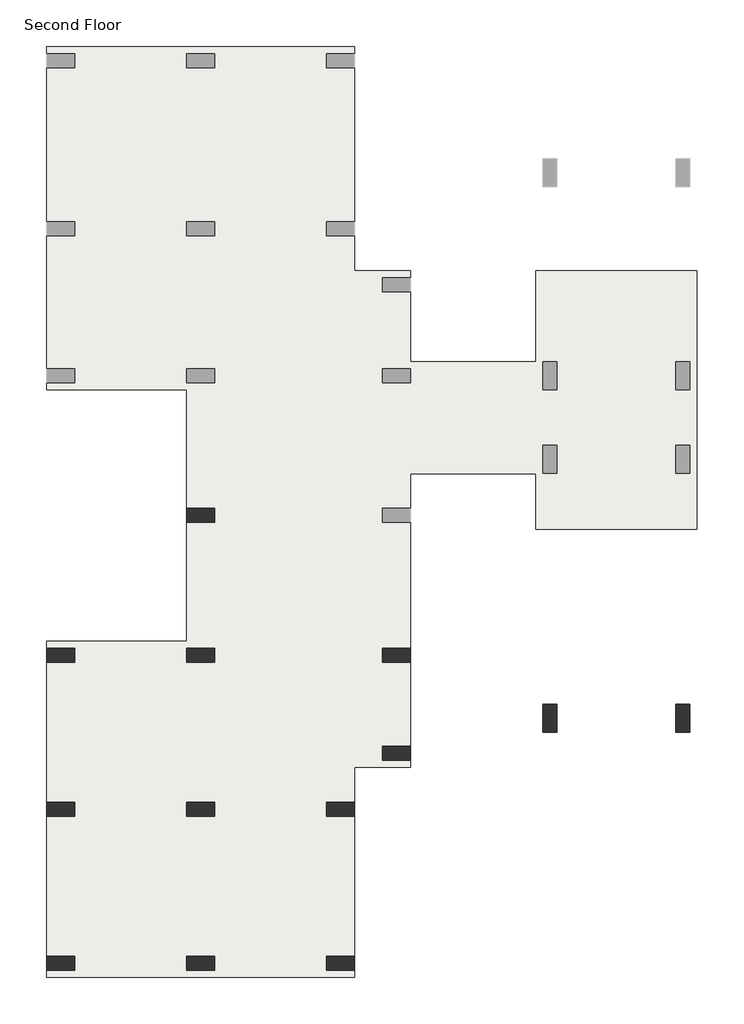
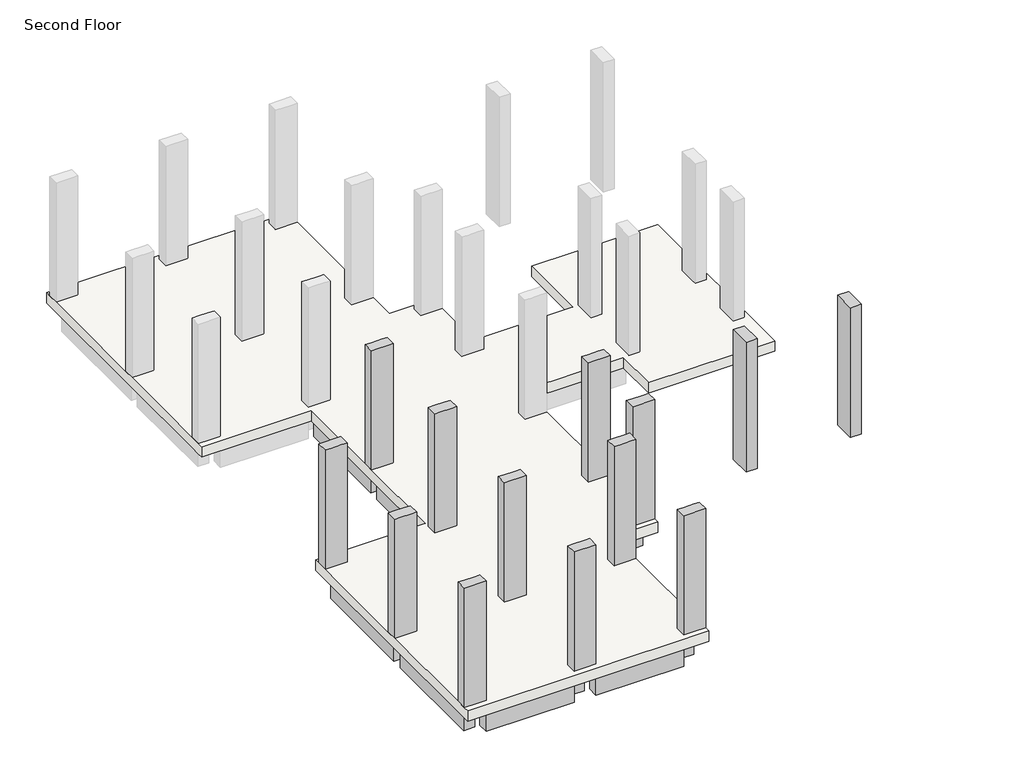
# One storey, part 1 of 2: 17 beams, 13 columns, 1 slab.
"""IFC4 building model written with IfcOpenShell, lengths in millimetres."""

import ifcopenshell
import ifcopenshell.guid

model = None  # the IFC model being written
_history = None  # IfcOwnerHistory: only IFC2X3 demands one
_inside = {}  # id of a spatial element -> (the spatial element, [elements in it])
_under = {}  # id of a project, library or spatial element -> (it, [spatial elements below it])
_declared = {}  # id of a project -> (the project, [libraries it declares])
_typed = {}  # id of a type object -> (the type object, [elements of that type])
_made_of = {}  # id of a material, layer set ... -> (it, [elements and type objects made of it])


def new_model(schema):
    """Start an empty IFC model of exactly this schema.

    Asked for "IFC4X3", IfcOpenShell would pick the latest addendum, in which some entities
    have other attributes; the version numbers below select the first issue.
    IFC2X3 requires an IfcOwnerHistory on every rooted entity: one is made here for all.
    """
    global model, _history
    if schema == "IFC4X3":
        model = ifcopenshell.file(schema_version=(4, 3, 0, 0))
    else:
        model = ifcopenshell.file(schema=schema)
    _inside.clear()
    _under.clear()
    _declared.clear()
    _typed.clear()
    _made_of.clear()
    _history = None
    if model.schema == "IFC2X3":
        org = make("IfcOrganization", Name="unknown")
        user = make(
            "IfcPersonAndOrganization",
            ThePerson=make("IfcPerson", FamilyName="unknown"),
            TheOrganization=org,
        )
        app = make(
            "IfcApplication",
            ApplicationDeveloper=org,
            Version="unknown",
            ApplicationFullName="unknown",
            ApplicationIdentifier="unknown",
        )
        _history = make(
            "IfcOwnerHistory",
            OwningUser=user,
            OwningApplication=app,
            ChangeAction="ADDED",
            CreationDate=0,
        )
    return model


def make(cls, **values):
    """One entity of the class cls with the attributes given. An attribute that is None is left unset."""
    return model.create_entity(
        cls, **{name: value for name, value in values.items() if value is not None}
    )


def rooted(cls, **values):
    """An entity with a GlobalId (a new one), such as an element, a storey or a relation."""
    return make(cls, GlobalId=ifcopenshell.guid.new(), OwnerHistory=_history, **values)


def si_unit(unit_type, name, prefix=None):
    """IfcSIUnit, for example si_unit("LENGTHUNIT", "METRE", prefix="MILLI")."""
    return make("IfcSIUnit", UnitType=unit_type, Prefix=prefix, Name=name)


def assignment(units):
    """IfcUnitAssignment: the units of a project."""
    return None if units is None else make("IfcUnitAssignment", Units=units)


def point(xyz):
    """IfcCartesianPoint."""
    return None if xyz is None else make("IfcCartesianPoint", Coordinates=xyz)


def direction(xyz):
    """IfcDirection."""
    return None if xyz is None else make("IfcDirection", DirectionRatios=xyz)


def frame(location, z_axis=None, x_axis=None):
    """IfcAxis2Placement3D, a coordinate frame: its origin and axes. An axis left out is left unset."""
    return make(
        "IfcAxis2Placement3D",
        Location=point(location),
        Axis=direction(z_axis),
        RefDirection=direction(x_axis),
    )


def origin():
    """The frame at (0, 0, 0) with its axes left unset."""
    return frame((0.0, 0.0, 0.0))


def place(relative_to, where):
    """IfcLocalPlacement: puts the frame where relative to a parent placement (None: the world)."""
    return make(
        "IfcLocalPlacement", PlacementRelTo=relative_to, RelativePlacement=where
    )


def context(
    kind, dimensions, precision=None, world=None, true_north=None, identifier=None
):
    """IfcGeometricRepresentationContext, for example the 3D "Model" context."""
    return make(
        "IfcGeometricRepresentationContext",
        ContextIdentifier=identifier,
        ContextType=kind,
        CoordinateSpaceDimension=dimensions,
        Precision=precision,
        WorldCoordinateSystem=world,
        TrueNorth=true_north,
    )


def project(units=None, contexts=None):
    """IfcProject with its units and contexts."""
    return rooted(
        "IfcProject",
        Name="project",
        RepresentationContexts=contexts,
        UnitsInContext=assignment(units),
    )


def spatial(cls, under=None, at=None, **own):
    """A site, building, storey or space (cls), placed at a placement, below another one or the project."""
    s = rooted(cls, ObjectPlacement=at, **own)
    if under is not None:
        _under.setdefault(under.id(), (under, []))[1].append(s)
    return s


def polyline(points):
    """IfcPolyline through the points."""
    return make("IfcPolyline", Points=[point(p) for p in points])


def outline(outer, holes=None, kind="AREA"):
    """IfcArbitraryClosedProfileDef: a profile drawn as a closed curve; with holes, ...WithVoids."""
    if holes is None:
        return make("IfcArbitraryClosedProfileDef", ProfileType=kind, OuterCurve=outer)
    return make(
        "IfcArbitraryProfileDefWithVoids",
        ProfileType=kind,
        OuterCurve=outer,
        InnerCurves=holes,
    )


def extrude(swept, where, along, depth):
    """IfcExtrudedAreaSolid: the profile swept, set in the frame where, extruded along a direction by depth."""
    return make(
        "IfcExtrudedAreaSolid",
        SweptArea=swept,
        Position=where,
        ExtrudedDirection=direction(along),
        Depth=depth,
    )


def faces_of(points, faces, orient=None, outer=None):
    """IfcFace entities. A face is a list of loops; a loop is a list of indices into points, from 0.

    orient and outer hold one flag for each loop. By default every Orientation is true, the
    first loop of a face is its IfcFaceOuterBound and the others are IfcFaceBound.
    """
    made = []
    for i, loops in enumerate(faces):
        bounds = []
        for j, loop in enumerate(loops):
            is_outer = j == 0 if outer is None else outer[i][j]
            bounds.append(
                make(
                    "IfcFaceOuterBound" if is_outer else "IfcFaceBound",
                    Bound=make("IfcPolyLoop", Polygon=[points[k] for k in loop]),
                    Orientation=True if orient is None else orient[i][j],
                )
            )
        made.append(make("IfcFace", Bounds=bounds))
    return made


def faceted_brep(points, faces, orient=None, outer=None, voids=None):
    """IfcFacetedBrep: a solid bounded by flat faces; with voids (closed shells), ...WithVoids."""
    shared = [point(p) for p in points]
    hull = make("IfcClosedShell", CfsFaces=faces_of(shared, faces, orient, outer))
    if voids is None:
        return make("IfcFacetedBrep", Outer=hull)
    return make(
        "IfcFacetedBrepWithVoids",
        Outer=hull,
        Voids=[
            make(cls, CfsFaces=faces_of(shared, fs, o, b)) for cls, fs, o, b in voids
        ],
    )


def shape(context_of_items, identifier, shape_type, items):
    """IfcShapeRepresentation: the items that make up one representation, for example the "Body"."""
    return make(
        "IfcShapeRepresentation",
        ContextOfItems=context_of_items,
        RepresentationIdentifier=identifier,
        RepresentationType=shape_type,
        Items=items,
    )


def made_of(thing, what):
    """Note that an element or type object is made of a material, layer set ...; save() writes the relation."""
    if what is not None:
        _made_of.setdefault(what.id(), (what, []))[1].append(thing)
    return thing


def element(
    cls,
    number,
    at=None,
    inside=None,
    cuts=None,
    type_object=None,
    material=None,
    context=None,
    identifier="Body",
    shape_type=None,
    held_by="IfcProductDefinitionShape",
    body=None,
    shapes=None,
    **own,
):
    """One element of the class cls, such as IfcWall. Its Tag is "e" and its number.

    at: its placement. inside: the storey or other place that contains it. cuts: it is an
    opening in that element (IfcRelVoidsElement). A single representation is given by context,
    identifier, shape_type and body (its items); several are given by shapes. held_by: the class
    of the entity that holds the representations. save() writes the other relations.
    """
    e = rooted(cls, Tag="e%d" % number, ObjectPlacement=at, **own)
    if body is not None:
        shapes = [shape(context, identifier, shape_type, body)]
    if shapes is not None:
        e.Representation = make(held_by, Representations=shapes)
    if inside is not None:
        _inside.setdefault(inside.id(), (inside, []))[1].append(e)
    if cuts is not None:
        rooted(
            "IfcRelVoidsElement", RelatingBuildingElement=cuts, RelatedOpeningElement=e
        )
    if type_object is not None:
        _typed.setdefault(type_object.id(), (type_object, []))[1].append(e)
    return made_of(e, material)


def aggregate(whole, parts):
    """IfcRelAggregates: a whole, such as a stair, and the parts it consists of."""
    return rooted("IfcRelAggregates", RelatingObject=whole, RelatedObjects=parts)


def save(model, path):
    """Write the relations noted so far, then the file.

    IfcRelAggregates (storeys below a building ...), IfcRelContainedInSpatialStructure (elements
    in a storey), IfcRelDefinesByType, IfcRelAssociatesMaterial and IfcRelDeclares: one each for
    every whole, place, type object, material and project.
    """
    for whole, parts in _under.values():
        aggregate(whole, parts)
    for where, things in _inside.values():
        rooted(
            "IfcRelContainedInSpatialStructure",
            RelatedElements=things,
            RelatingStructure=where,
        )
    for kind, things in _typed.values():
        rooted("IfcRelDefinesByType", RelatedObjects=things, RelatingType=kind)
    for what, things in _made_of.values():
        rooted("IfcRelAssociatesMaterial", RelatedObjects=things, RelatingMaterial=what)
    for by, libraries in _declared.values():
        rooted("IfcRelDeclares", RelatingContext=by, RelatedDefinitions=libraries)
    model.write(path)


model = new_model("IFC4")

# Units and contexts
model_context = context("Model", 3, world=origin())
ifc_project = project(units=[si_unit("LENGTHUNIT", "METRE", prefix="MILLI")], contexts=[model_context])

# Site, building, storey
site = spatial("IfcSite", under=ifc_project)
building = spatial("IfcBuilding", under=site)
storey = spatial("IfcBuildingStorey", under=building, Name="Second Floor", Elevation=3810.0)

# Beams
placement = place(None, origin())
element("IfcBeam", 1, ObjectType="Concrete-Rectangular Beam : 12 x 24", at=placement, inside=storey, context=model_context, shape_type="SweptSolid", body=[
    extrude(outline(polyline([(-8194.7663981, -2679.8512152), (-8499.5663981, -2679.8512152), (-8499.5663981, 63.3487848), (-8194.7663981, 63.3487848), (-8194.7663981, -2679.8512152)])), frame((0.0, 0.0, 2895.6), z_axis=(0.0, 0.0, 1.0), x_axis=(1.0, 0.0, 0.0)), (0.0, 0.0, 1.0), 609.6),
])
element("IfcBeam", 2, ObjectType="Concrete-Rectangular Beam : 12 x 24", at=placement, inside=storey, context=model_context, shape_type="SweptSolid", body=[
    extrude(outline(polyline([(-8194.7663981, -4813.4512152), (-8499.5663981, -4813.4512152), (-8499.5663981, -2984.6512152), (-8194.7663981, -2984.6512152), (-8194.7663981, -4813.4512152)])), frame((0.0, 0.0, 2895.6), z_axis=(0.0, 0.0, 1.0), x_axis=(1.0, 0.0, 0.0)), (0.0, 0.0, 1.0), 609.6),
])
element("IfcBeam", 3, ObjectType="Concrete-Rectangular Beam : 12 x 24", at=placement, inside=storey, context=model_context, shape_type="SweptSolid", body=[
    extrude(outline(polyline([(-12461.9663981, 368.1487848), (-12766.7663981, 368.1487848), (-12766.7663981, 3111.3487848), (-12461.9663981, 3111.3487848), (-12461.9663981, 368.1487848)])), frame((0.0, 0.0, 2895.6), z_axis=(0.0, 0.0, 1.0), x_axis=(1.0, 0.0, 0.0)), (0.0, 0.0, 1.0), 609.6),
])
element("IfcBeam", 4, ObjectType="Concrete-Rectangular Beam : 12 x 24", at=placement, inside=storey, context=model_context, shape_type="SweptSolid", body=[
    extrude(outline(polyline([(-12461.9663981, -2679.8512152), (-12766.7663981, -2679.8512152), (-12766.7663981, 63.3487848), (-12461.9663981, 63.3487848), (-12461.9663981, -2679.8512152)])), frame((0.0, 0.0, 2895.6), z_axis=(0.0, 0.0, 1.0), x_axis=(1.0, 0.0, 0.0)), (0.0, 0.0, 1.0), 609.6),
])
element("IfcBeam", 5, ObjectType="Concrete-Rectangular Beam : 12 x 24", at=placement, inside=storey, context=model_context, shape_type="SweptSolid", body=[
    extrude(outline(polyline([(-12919.1663981, -2679.8512152), (-12919.1663981, -2984.6512152), (-15357.5663981, -2984.6512152), (-15357.5663981, -2679.8512152), (-12919.1663981, -2679.8512152)])), frame((0.0, 0.0, 2895.6), z_axis=(0.0, 0.0, 1.0), x_axis=(1.0, 0.0, 0.0)), (0.0, 0.0, 1.0), 609.6),
])
element("IfcBeam", 6, ObjectType="Concrete-Rectangular Beam : 12 x 24", at=placement, inside=storey, context=model_context, shape_type="SweptSolid", body=[
    extrude(outline(polyline([(-8651.9663981, -2679.8512152), (-8651.9663981, -2984.6512152), (-12309.5663981, -2984.6512152), (-12309.5663981, -2679.8512152), (-8651.9663981, -2679.8512152)])), frame((0.0, 0.0, 2895.6), z_axis=(0.0, 0.0, 1.0), x_axis=(1.0, 0.0, 0.0)), (0.0, 0.0, 1.0), 609.6),
])
element("IfcBeam", 7, ObjectType="Concrete-Rectangular Beam : 12 x 24", at=placement, inside=storey, context=model_context, shape_type="SweptSolid", body=[
    extrude(outline(polyline([(-15509.9663981, -6032.6512152), (-15814.7663981, -6032.6512152), (-15814.7663981, -2984.6512152), (-15509.9663981, -2984.6512152), (-15509.9663981, -6032.6512152)])), frame((0.0, 0.0, 2895.6), z_axis=(0.0, 0.0, 1.0), x_axis=(1.0, 0.0, 0.0)), (0.0, 0.0, 1.0), 609.6),
])
element("IfcBeam", 8, ObjectType="Concrete-Rectangular Beam : 12 x 24", at=placement, inside=storey, context=model_context, shape_type="SweptSolid", body=[
    extrude(outline(polyline([(-12919.1663981, -6032.6512152), (-12919.1663981, -6337.4512152), (-15357.5663981, -6337.4512152), (-15357.5663981, -6032.6512152), (-12919.1663981, -6032.6512152)])), frame((0.0, 0.0, 2895.6), z_axis=(0.0, 0.0, 1.0), x_axis=(1.0, 0.0, 0.0)), (0.0, 0.0, 1.0), 609.6),
])
element("IfcBeam", 9, ObjectType="Concrete-Rectangular Beam : 12 x 24", at=placement, inside=storey, context=model_context, shape_type="SweptSolid", body=[
    extrude(outline(polyline([(-9871.1663981, -6032.6512152), (-9871.1663981, -6337.4512152), (-12309.5663981, -6337.4512152), (-12309.5663981, -6032.6512152), (-9871.1663981, -6032.6512152)])), frame((0.0, 0.0, 2895.6), z_axis=(0.0, 0.0, 1.0), x_axis=(1.0, 0.0, 0.0)), (0.0, 0.0, 1.0), 609.6),
])
element("IfcBeam", 10, ObjectType="Concrete-Rectangular Beam : 12 x 24", at=placement, inside=storey, context=model_context, shape_type="SweptSolid", body=[
    extrude(outline(polyline([(-12461.9663981, -6032.6512152), (-12766.7663981, -6032.6512152), (-12766.7663981, -2984.6512152), (-12461.9663981, -2984.6512152), (-12461.9663981, -6032.6512152)])), frame((0.0, 0.0, 2895.6), z_axis=(0.0, 0.0, 1.0), x_axis=(1.0, 0.0, 0.0)), (0.0, 0.0, 1.0), 609.6),
])
element("IfcBeam", 11, ObjectType="Concrete-Rectangular Beam : 12 x 24", at=placement, inside=storey, context=model_context, shape_type="SweptSolid", body=[
    extrude(outline(polyline([(-15509.9663981, -9385.4512152), (-15814.7663981, -9385.4512152), (-15814.7663981, -6337.4512152), (-15509.9663981, -6337.4512152), (-15509.9663981, -9385.4512152)])), frame((0.0, 0.0, 2895.6), z_axis=(0.0, 0.0, 1.0), x_axis=(1.0, 0.0, 0.0)), (0.0, 0.0, 1.0), 609.6),
])
element("IfcBeam", 12, ObjectType="Concrete-Rectangular Beam : 12 x 24", at=placement, inside=storey, context=model_context, shape_type="SweptSolid", body=[
    extrude(outline(polyline([(-12919.1663981, -9385.4512152), (-12919.1663981, -9690.2512152), (-15357.5663981, -9690.2512152), (-15357.5663981, -9385.4512152), (-12919.1663981, -9385.4512152)])), frame((0.0, 0.0, 2895.6), z_axis=(0.0, 0.0, 1.0), x_axis=(1.0, 0.0, 0.0)), (0.0, 0.0, 1.0), 609.6),
])
element("IfcBeam", 13, ObjectType="Concrete-Rectangular Beam : 12 x 24", at=placement, inside=storey, context=model_context, shape_type="SweptSolid", body=[
    extrude(outline(polyline([(-9871.1663981, -9385.4512152), (-9871.1663981, -9690.2512152), (-12309.5663981, -9690.2512152), (-12309.5663981, -9385.4512152), (-9871.1663981, -9385.4512152)])), frame((0.0, 0.0, 2895.6), z_axis=(0.0, 0.0, 1.0), x_axis=(1.0, 0.0, 0.0)), (0.0, 0.0, 1.0), 609.6),
])
element("IfcBeam", 14, ObjectType="Concrete-Rectangular Beam : 12 x 24", at=placement, inside=storey, context=model_context, shape_type="SweptSolid", body=[
    extrude(outline(polyline([(-12461.9663981, -9385.4512152), (-12766.7663981, -9385.4512152), (-12766.7663981, -6337.4512152), (-12461.9663981, -6337.4512152), (-12461.9663981, -9385.4512152)])), frame((0.0, 0.0, 2895.6), z_axis=(0.0, 0.0, 1.0), x_axis=(1.0, 0.0, 0.0)), (0.0, 0.0, 1.0), 609.6),
])
element("IfcBeam", 15, ObjectType="Concrete-Rectangular Beam : 12 x 24", at=placement, inside=storey, context=model_context, shape_type="SweptSolid", body=[
    extrude(outline(polyline([(-9413.9663981, -9385.4512152), (-9718.7663981, -9385.4512152), (-9718.7663981, -6337.4512152), (-9413.9663981, -6337.4512152), (-9413.9663981, -9385.4512152)])), frame((0.0, 0.0, 2895.6), z_axis=(0.0, 0.0, 1.0), x_axis=(1.0, 0.0, 0.0)), (0.0, 0.0, 1.0), 609.6),
])
element("IfcBeam", 16, ObjectType="Concrete-Rectangular Beam : 12 x 24", at=placement, inside=storey, context=model_context, shape_type="Brep", body=[
    faceted_brep([(-9718.7663981, -6032.6512152, 3505.2), (-9413.9663981, -6032.6512152, 3505.2), (-9413.9663981, -5118.2512152, 3505.2), (-9413.9663981, -4813.4512152, 3505.2), (-9718.7663981, -4813.4512152, 3505.2), (-9413.9663981, -6032.6512152, 2895.6), (-9413.9663981, -5118.2512152, 2895.6), (-9413.9663981, -4813.4512152, 2895.6), (-9718.7663981, -6032.6512152, 2895.6), (-9718.7663981, -4813.4512152, 2895.6)], [[[0, 1, 2, 3, 4]], [[1, 5, 6, 7, 3, 2]], [[5, 8, 9, 7, 6]], [[8, 0, 4, 9]], [[0, 8, 5, 1]], [[4, 3, 7, 9]]]),
])
element("IfcBeam", 17, ObjectType="Concrete-Rectangular Beam : 12 x 24", at=placement, inside=storey, context=model_context, shape_type="SweptSolid", body=[
    extrude(outline(polyline([(-8651.9663981, -4813.4512152), (-8651.9663981, -5118.2512152), (-9413.9663981, -5118.2512152), (-9413.9663981, -4813.4512152), (-8651.9663981, -4813.4512152)])), frame((0.0, 0.0, 2895.6), z_axis=(0.0, 0.0, 1.0), x_axis=(1.0, 0.0, 0.0)), (0.0, 0.0, 1.0), 609.6),
])

# Columns
element("IfcColumn", 18, ObjectType="Concrete-Rectangular-Column : 12 x 24", at=placement, inside=storey, context=model_context, shape_type="Brep", body=[
    faceted_brep([(-15967.1663981, -2679.8512152, 3810.0), (-15357.5663981, -2679.8512152, 3810.0), (-15357.5663981, -2984.6512152, 3810.0), (-15967.1663981, -2984.6512152, 3810.0), (-15967.1663981, -2679.8512152, 7315.2), (-15357.5663981, -2679.8512152, 7315.2), (-15357.5663981, -2679.8512152, 6705.6), (-15357.5663981, -2984.6512152, 7315.2), (-15357.5663981, -2984.6512152, 6705.6), (-15509.9663981, -2984.6512152, 7315.2), (-15814.7663981, -2984.6512152, 7315.2), (-15967.1663981, -2984.6512152, 7315.2)], [[[0, 1, 2, 3]], [[4, 5, 6, 1, 0]], [[5, 7, 8, 2, 1, 6]], [[7, 9, 10, 11, 3, 2, 8]], [[11, 4, 0, 3]], [[4, 11, 10, 9, 7, 5]]]),
])
element("IfcColumn", 19, ObjectType="Concrete-Rectangular-Column : 12 x 24", at=placement, inside=storey, context=model_context, shape_type="Brep", body=[
    faceted_brep([(-15967.1663981, -6032.6512152, 3810.0), (-15357.5663981, -6032.6512152, 3810.0), (-15357.5663981, -6337.4512152, 3810.0), (-15967.1663981, -6337.4512152, 3810.0), (-15967.1663981, -6032.6512152, 7315.2), (-15814.7663981, -6032.6512152, 7315.2), (-15509.9663981, -6032.6512152, 7315.2), (-15357.5663981, -6032.6512152, 7315.2), (-15357.5663981, -6032.6512152, 6705.6), (-15357.5663981, -6337.4512152, 7315.2), (-15357.5663981, -6337.4512152, 6705.6), (-15509.9663981, -6337.4512152, 7315.2), (-15814.7663981, -6337.4512152, 7315.2), (-15967.1663981, -6337.4512152, 7315.2)], [[[0, 1, 2, 3]], [[4, 5, 6, 7, 8, 1, 0]], [[7, 9, 10, 2, 1, 8]], [[9, 11, 12, 13, 3, 2, 10]], [[13, 4, 0, 3]], [[4, 13, 12, 11, 9, 7, 6, 5]]]),
])
element("IfcColumn", 20, ObjectType="Concrete-Rectangular-Column : 12 x 24", at=placement, inside=storey, context=model_context, shape_type="Brep", body=[
    faceted_brep([(-15967.1663981, -9385.4512152, 3810.0), (-15357.5663981, -9385.4512152, 3810.0), (-15357.5663981, -9690.2512152, 3810.0), (-15967.1663981, -9690.2512152, 3810.0), (-15967.1663981, -9385.4512152, 7315.2), (-15814.7663981, -9385.4512152, 7315.2), (-15509.9663981, -9385.4512152, 7315.2), (-15357.5663981, -9385.4512152, 7315.2), (-15357.5663981, -9385.4512152, 6705.6), (-15357.5663981, -9690.2512152, 7315.2), (-15357.5663981, -9690.2512152, 6705.6), (-15967.1663981, -9690.2512152, 7315.2)], [[[0, 1, 2, 3]], [[4, 5, 6, 7, 8, 1, 0]], [[7, 9, 10, 2, 1, 8]], [[9, 11, 3, 2, 10]], [[11, 4, 0, 3]], [[4, 11, 9, 7, 6, 5]]]),
])
element("IfcColumn", 21, ObjectType="Concrete-Rectangular-Column : 12 x 24", at=placement, inside=storey, context=model_context, shape_type="Brep", body=[
    faceted_brep([(-12919.1663981, -9385.4512152, 3810.0), (-12309.5663981, -9385.4512152, 3810.0), (-12309.5663981, -9690.2512152, 3810.0), (-12919.1663981, -9690.2512152, 3810.0), (-12919.1663981, -9385.4512152, 7315.2), (-12766.7663981, -9385.4512152, 7315.2), (-12461.9663981, -9385.4512152, 7315.2), (-12309.5663981, -9385.4512152, 7315.2), (-12309.5663981, -9385.4512152, 6705.6), (-12919.1663981, -9385.4512152, 6705.6), (-12309.5663981, -9690.2512152, 7315.2), (-12309.5663981, -9690.2512152, 6705.6), (-12919.1663981, -9690.2512152, 7315.2), (-12919.1663981, -9690.2512152, 6705.6)], [[[0, 1, 2, 3]], [[4, 5, 6, 7, 8, 1, 0, 9]], [[7, 10, 11, 2, 1, 8]], [[10, 12, 13, 3, 2, 11]], [[12, 4, 9, 0, 3, 13]], [[4, 12, 10, 7, 6, 5]]]),
])
element("IfcColumn", 22, ObjectType="Concrete-Rectangular-Column : 12 x 24", at=placement, inside=storey, context=model_context, shape_type="Brep", body=[
    faceted_brep([(-12919.1663981, -6032.6512152, 3810.0), (-12309.5663981, -6032.6512152, 3810.0), (-12309.5663981, -6337.4512152, 3810.0), (-12919.1663981, -6337.4512152, 3810.0), (-12919.1663981, -6032.6512152, 7315.2), (-12766.7663981, -6032.6512152, 7315.2), (-12461.9663981, -6032.6512152, 7315.2), (-12309.5663981, -6032.6512152, 7315.2), (-12309.5663981, -6032.6512152, 6705.6), (-12919.1663981, -6032.6512152, 6705.6), (-12309.5663981, -6337.4512152, 7315.2), (-12309.5663981, -6337.4512152, 6705.6), (-12461.9663981, -6337.4512152, 7315.2), (-12766.7663981, -6337.4512152, 7315.2), (-12919.1663981, -6337.4512152, 7315.2), (-12919.1663981, -6337.4512152, 6705.6)], [[[0, 1, 2, 3]], [[4, 5, 6, 7, 8, 1, 0, 9]], [[7, 10, 11, 2, 1, 8]], [[10, 12, 13, 14, 15, 3, 2, 11]], [[14, 4, 9, 0, 3, 15]], [[4, 14, 13, 12, 10, 7, 6, 5]]]),
])
element("IfcColumn", 23, ObjectType="Concrete-Rectangular-Column : 12 x 24", at=placement, inside=storey, context=model_context, shape_type="Brep", body=[
    faceted_brep([(-12919.1663981, -2679.8512152, 3810.0), (-12309.5663981, -2679.8512152, 3810.0), (-12309.5663981, -2984.6512152, 3810.0), (-12919.1663981, -2984.6512152, 3810.0), (-12919.1663981, -2679.8512152, 7315.2), (-12766.7663981, -2679.8512152, 7315.2), (-12461.9663981, -2679.8512152, 7315.2), (-12309.5663981, -2679.8512152, 7315.2), (-12309.5663981, -2679.8512152, 6705.6), (-12919.1663981, -2679.8512152, 6705.6), (-12309.5663981, -2984.6512152, 7315.2), (-12309.5663981, -2984.6512152, 6705.6), (-12461.9663981, -2984.6512152, 7315.2), (-12766.7663981, -2984.6512152, 7315.2), (-12919.1663981, -2984.6512152, 7315.2), (-12919.1663981, -2984.6512152, 6705.6)], [[[0, 1, 2, 3]], [[4, 5, 6, 7, 8, 1, 0, 9]], [[7, 10, 11, 2, 1, 8]], [[10, 12, 13, 14, 15, 3, 2, 11]], [[14, 4, 9, 0, 3, 15]], [[4, 14, 13, 12, 10, 7, 6, 5]]]),
])
element("IfcColumn", 24, ObjectType="Concrete-Rectangular-Column : 12 x 24", at=placement, inside=storey, context=model_context, shape_type="Brep", body=[
    faceted_brep([(-12919.1663981, 368.1487848, 3810.0), (-12309.5663981, 368.1487848, 3810.0), (-12309.5663981, 63.3487848, 3810.0), (-12919.1663981, 63.3487848, 3810.0), (-12919.1663981, 368.1487848, 7315.2), (-12766.7663981, 368.1487848, 7315.2), (-12461.9663981, 368.1487848, 7315.2), (-12309.5663981, 368.1487848, 7315.2), (-12309.5663981, 368.1487848, 6705.6), (-12309.5663981, 63.3487848, 7315.2), (-12309.5663981, 63.3487848, 6705.6), (-12461.9663981, 63.3487848, 7315.2), (-12766.7663981, 63.3487848, 7315.2), (-12919.1663981, 63.3487848, 7315.2)], [[[0, 1, 2, 3]], [[4, 5, 6, 7, 8, 1, 0]], [[7, 9, 10, 2, 1, 8]], [[9, 11, 12, 13, 3, 2, 10]], [[13, 4, 0, 3]], [[4, 13, 12, 11, 9, 7, 6, 5]]]),
])
element("IfcColumn", 25, ObjectType="Concrete-Rectangular-Column : 12 x 24", at=placement, inside=storey, context=model_context, shape_type="Brep", body=[
    faceted_brep([(-8651.9663981, -2679.8512152, 3810.0), (-8042.3663981, -2679.8512152, 3810.0), (-8042.3663981, -2984.6512152, 3810.0), (-8651.9663981, -2984.6512152, 3810.0), (-8651.9663981, -2679.8512152, 7315.2), (-8499.5663981, -2679.8512152, 7315.2), (-8194.7663981, -2679.8512152, 7315.2), (-8042.3663981, -2679.8512152, 7315.2), (-8651.9663981, -2679.8512152, 6705.6), (-8042.3663981, -2984.6512152, 7315.2), (-8194.7663981, -2984.6512152, 7315.2), (-8499.5663981, -2984.6512152, 7315.2), (-8651.9663981, -2984.6512152, 7315.2), (-8651.9663981, -2984.6512152, 6705.6)], [[[0, 1, 2, 3]], [[4, 5, 6, 7, 1, 0, 8]], [[7, 9, 2, 1]], [[9, 10, 11, 12, 13, 3, 2]], [[12, 4, 8, 0, 3, 13]], [[4, 12, 11, 10, 9, 7, 6, 5]]]),
])
element("IfcColumn", 26, ObjectType="Concrete-Rectangular-Column : 12 x 24", at=placement, inside=storey, context=model_context, shape_type="Brep", body=[
    faceted_brep([(-8651.9663981, -4813.4512152, 3810.0), (-8042.3663981, -4813.4512152, 3810.0), (-8042.3663981, -5118.2512152, 3810.0), (-8651.9663981, -5118.2512152, 3810.0), (-8651.9663981, -4813.4512152, 7315.2), (-8499.5663981, -4813.4512152, 7315.2), (-8194.7663981, -4813.4512152, 7315.2), (-8042.3663981, -4813.4512152, 7315.2), (-8651.9663981, -4813.4512152, 6705.6), (-8042.3663981, -5118.2512152, 7315.2), (-8651.9663981, -5118.2512152, 7315.2), (-8651.9663981, -5118.2512152, 6705.6)], [[[0, 1, 2, 3]], [[4, 5, 6, 7, 1, 0, 8]], [[7, 9, 2, 1]], [[9, 10, 11, 3, 2]], [[10, 4, 8, 0, 3, 11]], [[4, 10, 9, 7, 6, 5]]]),
])
element("IfcColumn", 27, ObjectType="Concrete-Rectangular-Column : 12 x 24", at=placement, inside=storey, context=model_context, shape_type="SweptSolid", body=[
    extrude(outline(polyline([(-5146.7663981, -4508.6512152), (-5146.7663981, -3899.0512152), (-4841.9663981, -3899.0512152), (-4841.9663981, -4508.6512152), (-5146.7663981, -4508.6512152)])), frame((0.0, 0.0, 3810.0), z_axis=(0.0, 0.0, 1.0), x_axis=(1.0, 0.0, 0.0)), (0.0, 0.0, 1.0), 3810.0),
])
element("IfcColumn", 28, ObjectType="Concrete-Rectangular-Column : 12 x 24", at=placement, inside=storey, context=model_context, shape_type="SweptSolid", body=[
    extrude(outline(polyline([(-2251.1663981, -4508.6512152), (-2251.1663981, -3899.0512152), (-1946.3663981, -3899.0512152), (-1946.3663981, -4508.6512152), (-2251.1663981, -4508.6512152)])), frame((0.0, 0.0, 3810.0), z_axis=(0.0, 0.0, 1.0), x_axis=(1.0, 0.0, 0.0)), (0.0, 0.0, 1.0), 3810.0),
])
element("IfcColumn", 29, ObjectType="Concrete-Rectangular-Column : 12 x 24", at=placement, inside=storey, context=model_context, shape_type="Brep", body=[
    faceted_brep([(-9261.5663981, -6337.4512152, 3810.0), (-9871.1663981, -6337.4512152, 3810.0), (-9871.1663981, -6032.6512152, 3810.0), (-9261.5663981, -6032.6512152, 3810.0), (-9261.5663981, -6337.4512152, 7315.2), (-9413.9663981, -6337.4512152, 7315.2), (-9718.7663981, -6337.4512152, 7315.2), (-9871.1663981, -6337.4512152, 7315.2), (-9871.1663981, -6337.4512152, 6705.6), (-9871.1663981, -6032.6512152, 7315.2), (-9871.1663981, -6032.6512152, 6705.6), (-9718.7663981, -6032.6512152, 7315.2), (-9413.9663981, -6032.6512152, 7315.2), (-9261.5663981, -6032.6512152, 7315.2)], [[[0, 1, 2, 3]], [[4, 5, 6, 7, 8, 1, 0]], [[7, 9, 10, 2, 1, 8]], [[9, 11, 12, 13, 3, 2, 10]], [[13, 4, 0, 3]], [[4, 13, 12, 11, 9, 7, 6, 5]]]),
])
element("IfcColumn", 30, ObjectType="Concrete-Rectangular-Column : 12 x 24", at=placement, inside=storey, context=model_context, shape_type="Brep", body=[
    faceted_brep([(-9261.5663981, -9690.2512152, 3810.0), (-9871.1663981, -9690.2512152, 3810.0), (-9871.1663981, -9385.4512152, 3810.0), (-9261.5663981, -9385.4512152, 3810.0), (-9261.5663981, -9690.2512152, 7315.2), (-9871.1663981, -9690.2512152, 7315.2), (-9871.1663981, -9690.2512152, 6705.6), (-9871.1663981, -9385.4512152, 7315.2), (-9871.1663981, -9385.4512152, 6705.6), (-9718.7663981, -9385.4512152, 7315.2), (-9413.9663981, -9385.4512152, 7315.2), (-9261.5663981, -9385.4512152, 7315.2)], [[[0, 1, 2, 3]], [[4, 5, 6, 1, 0]], [[5, 7, 8, 2, 1, 6]], [[7, 9, 10, 11, 3, 2, 8]], [[11, 4, 0, 3]], [[4, 11, 10, 9, 7, 5]]]),
])

# Slab
element("IfcSlab", 31, ObjectType="Generic - 12\"", at=placement, inside=storey, context=model_context, shape_type="Brep", body=[
    faceted_brep([(-9261.5663981, 10426.5487848, 3505.2), (-9261.5663981, 10274.1487848, 3505.2), (-9261.5663981, 9969.3487848, 3505.2), (-9261.5663981, 6616.5487848, 3505.2), (-9261.5663981, 6311.7487848, 3505.2), (-9261.5663981, 5549.7487848, 3505.2), (-8042.3663981, 5549.7487848, 3505.2), (-8042.3663981, 5397.3487848, 3505.2), (-8042.3663981, 5092.5487848, 3505.2), (-8042.3663981, 3568.5487848, 3505.2), (-5299.1663981, 3568.5487848, 3505.2), (-5299.1663981, 5549.7487848, 3505.2), (-1793.9663981, 5549.7487848, 3505.2), (-1793.9663981, -89.0512152, 3505.2), (-5299.1663981, -89.0512152, 3505.2), (-5299.1663981, 1130.1487848, 3505.2), (-8042.3663981, 1130.1487848, 3505.2), (-8042.3663981, 368.1487848, 3505.2), (-8042.3663981, 63.3487848, 3505.2), (-8042.3663981, -2679.8512152, 3505.2), (-8042.3663981, -2984.6512152, 3505.2), (-8042.3663981, -4813.4512152, 3505.2), (-8042.3663981, -5118.2512152, 3505.2), (-8042.3663981, -5270.6512152, 3505.2), (-9261.5663981, -5270.6512152, 3505.2), (-9261.5663981, -6032.6512152, 3505.2), (-9261.5663981, -6337.4512152, 3505.2), (-9261.5663981, -9385.4512152, 3505.2), (-9261.5663981, -9690.2512152, 3505.2), (-9261.5663981, -9842.6512152, 3505.2), (-15967.1663981, -9842.6512152, 3505.2), (-15967.1663981, -9690.2512152, 3505.2), (-15967.1663981, -9385.4512152, 3505.2), (-15967.1663981, -6337.4512152, 3505.2), (-15967.1663981, -6032.6512152, 3505.2), (-15967.1663981, -2984.6512152, 3505.2), (-15967.1663981, -2679.8512152, 3505.2), (-15967.1663981, -2527.4512152, 3505.2), (-12919.1663981, -2527.4512152, 3505.2), (-12919.1663981, 63.3487848, 3505.2), (-12919.1663981, 368.1487848, 3505.2), (-12919.1663981, 2958.9487848, 3505.2), (-15967.1663981, 2958.9487848, 3505.2), (-15967.1663981, 3111.3487848, 3505.2), (-15967.1663981, 3416.1487848, 3505.2), (-15967.1663981, 6311.7487848, 3505.2), (-15967.1663981, 6616.5487848, 3505.2), (-15967.1663981, 9969.3487848, 3505.2), (-15967.1663981, 10274.1487848, 3505.2), (-15967.1663981, 10426.5487848, 3505.2), (-9261.5663981, 10426.5487848, 3810.0), (-15967.1663981, 10426.5487848, 3810.0), (-15967.1663981, 10274.1487848, 3810.0), (-15967.1663981, 9969.3487848, 3810.0), (-15967.1663981, 6616.5487848, 3810.0), (-15967.1663981, 6311.7487848, 3810.0), (-15967.1663981, 3416.1487848, 3810.0), (-15967.1663981, 3111.3487848, 3810.0), (-15967.1663981, 2958.9487848, 3810.0), (-12919.1663981, 2958.9487848, 3810.0), (-12919.1663981, 368.1487848, 3810.0), (-12919.1663981, 63.3487848, 3810.0), (-12919.1663981, -2527.4512152, 3810.0), (-15967.1663981, -2527.4512152, 3810.0), (-15967.1663981, -2679.8512152, 3810.0), (-15967.1663981, -2984.6512152, 3810.0), (-15967.1663981, -6032.6512152, 3810.0), (-15967.1663981, -6337.4512152, 3810.0), (-15967.1663981, -9385.4512152, 3810.0), (-15967.1663981, -9690.2512152, 3810.0), (-15967.1663981, -9842.6512152, 3810.0), (-9261.5663981, -9842.6512152, 3810.0), (-9261.5663981, -9690.2512152, 3810.0), (-9261.5663981, -9385.4512152, 3810.0), (-9261.5663981, -6337.4512152, 3810.0), (-9261.5663981, -6032.6512152, 3810.0), (-9261.5663981, -5270.6512152, 3810.0), (-8042.3663981, -5270.6512152, 3810.0), (-8042.3663981, -5118.2512152, 3810.0), (-8042.3663981, -4813.4512152, 3810.0), (-8042.3663981, -2984.6512152, 3810.0), (-8042.3663981, -2679.8512152, 3810.0), (-8042.3663981, 63.3487848, 3810.0), (-8042.3663981, 368.1487848, 3810.0), (-8042.3663981, 1130.1487848, 3810.0), (-5299.1663981, 1130.1487848, 3810.0), (-5299.1663981, -89.0512152, 3810.0), (-1793.9663981, -89.0512152, 3810.0), (-1793.9663981, 5549.7487848, 3810.0), (-5299.1663981, 5549.7487848, 3810.0), (-5299.1663981, 3568.5487848, 3810.0), (-8042.3663981, 3568.5487848, 3810.0), (-8042.3663981, 5092.5487848, 3810.0), (-8042.3663981, 5397.3487848, 3810.0), (-8042.3663981, 5549.7487848, 3810.0), (-9261.5663981, 5549.7487848, 3810.0), (-9261.5663981, 6311.7487848, 3810.0), (-9261.5663981, 6616.5487848, 3810.0), (-9261.5663981, 9969.3487848, 3810.0), (-9261.5663981, 10274.1487848, 3810.0)], [[[0, 1, 2, 3, 4, 5, 6, 7, 8, 9, 10, 11, 12, 13, 14, 15, 16, 17, 18, 19, 20, 21, 22, 23, 24, 25, 26, 27, 28, 29, 30, 31, 32, 33, 34, 35, 36, 37, 38, 39, 40, 41, 42, 43, 44, 45, 46, 47, 48, 49]], [[50, 51, 52, 53, 54, 55, 56, 57, 58, 59, 60, 61, 62, 63, 64, 65, 66, 67, 68, 69, 70, 71, 72, 73, 74, 75, 76, 77, 78, 79, 80, 81, 82, 83, 84, 85, 86, 87, 88, 89, 90, 91, 92, 93, 94, 95, 96, 97, 98, 99]], [[5, 4, 3, 2, 1, 0, 50, 99, 98, 97, 96, 95]], [[6, 5, 95, 94]], [[9, 8, 7, 6, 94, 93, 92, 91]], [[10, 9, 91, 90]], [[11, 10, 90, 89]], [[12, 11, 89, 88]], [[13, 12, 88, 87]], [[14, 13, 87, 86]], [[15, 14, 86, 85]], [[16, 15, 85, 84]], [[23, 22, 21, 20, 19, 18, 17, 16, 84, 83, 82, 81, 80, 79, 78, 77]], [[24, 23, 77, 76]], [[29, 28, 27, 26, 25, 24, 76, 75, 74, 73, 72, 71]], [[30, 29, 71, 70]], [[37, 36, 35, 34, 33, 32, 31, 30, 70, 69, 68, 67, 66, 65, 64, 63]], [[38, 37, 63, 62]], [[41, 40, 39, 38, 62, 61, 60, 59]], [[42, 41, 59, 58]], [[49, 48, 47, 46, 45, 44, 43, 42, 58, 57, 56, 55, 54, 53, 52, 51]], [[0, 49, 51, 50]]]),
])

save(model, "model.ifc")
